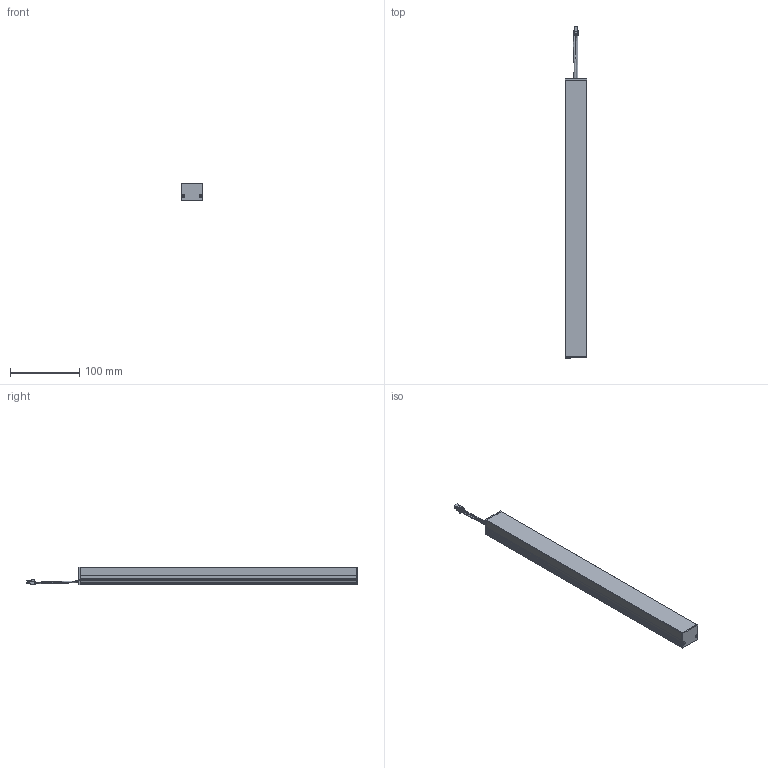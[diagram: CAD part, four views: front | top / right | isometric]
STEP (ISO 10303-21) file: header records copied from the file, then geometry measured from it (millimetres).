
FILE_DESCRIPTION (( 'STEP AP214' ), '1' );
FILE_NAME ('MantovaCompleto.STEP', '2022-02-18T10:00:38', ( '' ), ( '' ), 'SwSTEP 2.0', 'SolidWorks 2021', '' );
FILE_SCHEMA (( 'AUTOMOTIVE_DESIGN' ));
Length unit declared in the file: millimetre
Products named in the file (1): MantovaCompleto
Bounding box: 30.82 x 480.51 x 25.8 mm (x, y, z)
Surface area: 112161.3 mm2 (no closed solid volume)
Topology: 0 solids, 9 shells, 488 faces, 1346 edges, 866 vertices
Faces by surface type: plane 340, cylinder 84, cone 40, bspline 17, torus 4, sphere 3
Entity records: 25422 total; most frequent: CARTESIAN_POINT 7665, ORIENTED_EDGE 2676, DIRECTION 2396, EDGE_CURVE 1338, VECTOR 1044, LINE 1044, VERTEX_POINT 866, AXIS2_PLACEMENT_3D 676
